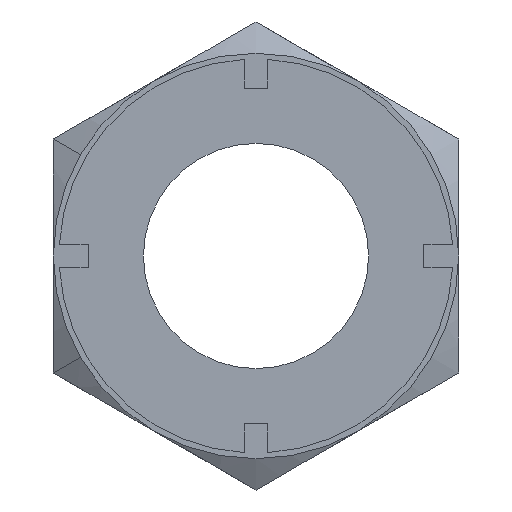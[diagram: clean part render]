
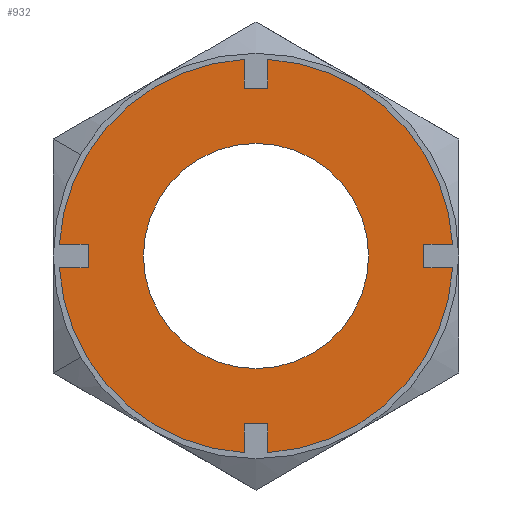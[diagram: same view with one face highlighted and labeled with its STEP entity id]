
A CAD part, left-side view. The second image highlights one B-rep face of the part: STEP entity #932.
In plain terms, the highlighted planar face has unit normal (-1, 0, 0).
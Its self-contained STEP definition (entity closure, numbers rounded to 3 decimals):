
#130=CARTESIAN_POINT('',(-27.0,0.,10.0));
#131=VERTEX_POINT('',#130);
#140=CARTESIAN_POINT('',(-27.0,10.0,0.0));
#141=VERTEX_POINT('',#140);
#142=CARTESIAN_POINT('',(-27.0,0.0,0.0));
#143=DIRECTION('',(1.0,0.0,0.0));
#144=DIRECTION('',(0.0,1.0,0.0));
#145=AXIS2_PLACEMENT_3D('',#142,#143,#144);
#146=CIRCLE('',#145,10.0);
#147=EDGE_CURVE('',#141,#131,#146,.T.);
#332=CARTESIAN_POINT('',(-27.0,0.,-10.0));
#333=VERTEX_POINT('',#332);
#342=CARTESIAN_POINT('',(-27.0,-10.0,0.));
#343=VERTEX_POINT('',#342);
#344=CARTESIAN_POINT('',(-27.0,0.0,0.0));
#345=DIRECTION('',(1.0,0.0,0.0));
#346=DIRECTION('',(0.0,1.0,0.0));
#347=AXIS2_PLACEMENT_3D('',#344,#345,#346);
#348=CIRCLE('',#347,10.0);
#349=EDGE_CURVE('',#343,#333,#348,.T.);
#383=CARTESIAN_POINT('',(-27.0,0.0,0.0));
#384=DIRECTION('',(1.0,0.0,0.0));
#385=DIRECTION('',(0.0,1.0,0.0));
#386=AXIS2_PLACEMENT_3D('',#383,#384,#385);
#387=CIRCLE('',#386,10.0);
#388=EDGE_CURVE('',#333,#141,#387,.T.);
#400=CARTESIAN_POINT('',(-27.0,17.468,1.05));
#401=VERTEX_POINT('',#400);
#416=CARTESIAN_POINT('',(-27.0,14.9,1.05));
#417=VERTEX_POINT('',#416);
#424=CARTESIAN_POINT('',(-27.0,17.468,1.05));
#425=DIRECTION('',(0.0,-1.0,0.0));
#426=VECTOR('',#425,2.568);
#427=LINE('',#424,#426);
#428=EDGE_CURVE('',#401,#417,#427,.T.);
#438=CARTESIAN_POINT('',(-27.0,17.468,-1.05));
#439=VERTEX_POINT('',#438);
#448=CARTESIAN_POINT('',(-27.0,14.9,-1.05));
#449=VERTEX_POINT('',#448);
#450=CARTESIAN_POINT('',(-27.0,14.9,-1.05));
#451=DIRECTION('',(0.0,1.0,0.0));
#452=VECTOR('',#451,2.568);
#453=LINE('',#450,#452);
#454=EDGE_CURVE('',#449,#439,#453,.T.);
#485=CARTESIAN_POINT('',(-27.0,14.9,1.05));
#486=DIRECTION('',(0.0,0.0,-1.0));
#487=VECTOR('',#486,2.1);
#488=LINE('',#485,#487);
#489=EDGE_CURVE('',#417,#449,#488,.T.);
#502=CARTESIAN_POINT('',(-27.0,-1.05,17.468));
#503=VERTEX_POINT('',#502);
#518=CARTESIAN_POINT('',(-27.0,-1.05,14.9));
#519=VERTEX_POINT('',#518);
#526=CARTESIAN_POINT('',(-27.0,-1.05,17.468));
#527=DIRECTION('',(0.0,0.0,-1.0));
#528=VECTOR('',#527,2.568);
#529=LINE('',#526,#528);
#530=EDGE_CURVE('',#503,#519,#529,.T.);
#540=CARTESIAN_POINT('',(-27.0,1.05,17.468));
#541=VERTEX_POINT('',#540);
#550=CARTESIAN_POINT('',(-27.0,1.05,14.9));
#551=VERTEX_POINT('',#550);
#552=CARTESIAN_POINT('',(-27.0,1.05,14.9));
#553=DIRECTION('',(0.0,0.0,1.0));
#554=VECTOR('',#553,2.568);
#555=LINE('',#552,#554);
#556=EDGE_CURVE('',#551,#541,#555,.T.);
#587=CARTESIAN_POINT('',(-27.0,-1.05,14.9));
#588=DIRECTION('',(0.0,1.0,0.0));
#589=VECTOR('',#588,2.1);
#590=LINE('',#587,#589);
#591=EDGE_CURVE('',#519,#551,#590,.T.);
#604=CARTESIAN_POINT('',(-27.0,-17.468,-1.05));
#605=VERTEX_POINT('',#604);
#620=CARTESIAN_POINT('',(-27.0,-14.9,-1.05));
#621=VERTEX_POINT('',#620);
#628=CARTESIAN_POINT('',(-27.0,-17.468,-1.05));
#629=DIRECTION('',(0.0,1.0,0.0));
#630=VECTOR('',#629,2.568);
#631=LINE('',#628,#630);
#632=EDGE_CURVE('',#605,#621,#631,.T.);
#642=CARTESIAN_POINT('',(-27.0,-17.468,1.05));
#643=VERTEX_POINT('',#642);
#652=CARTESIAN_POINT('',(-27.0,-14.9,1.05));
#653=VERTEX_POINT('',#652);
#654=CARTESIAN_POINT('',(-27.0,-14.9,1.05));
#655=DIRECTION('',(0.0,-1.0,0.0));
#656=VECTOR('',#655,2.568);
#657=LINE('',#654,#656);
#658=EDGE_CURVE('',#653,#643,#657,.T.);
#689=CARTESIAN_POINT('',(-27.0,-14.9,-1.05));
#690=DIRECTION('',(0.0,0.0,1.0));
#691=VECTOR('',#690,2.1);
#692=LINE('',#689,#691);
#693=EDGE_CURVE('',#621,#653,#692,.T.);
#706=CARTESIAN_POINT('',(-27.0,1.05,-17.468));
#707=VERTEX_POINT('',#706);
#722=CARTESIAN_POINT('',(-27.0,1.05,-14.9));
#723=VERTEX_POINT('',#722);
#730=CARTESIAN_POINT('',(-27.0,1.05,-17.468));
#731=DIRECTION('',(0.0,0.0,1.0));
#732=VECTOR('',#731,2.568);
#733=LINE('',#730,#732);
#734=EDGE_CURVE('',#707,#723,#733,.T.);
#744=CARTESIAN_POINT('',(-27.0,-1.05,-17.468));
#745=VERTEX_POINT('',#744);
#754=CARTESIAN_POINT('',(-27.0,-1.05,-14.9));
#755=VERTEX_POINT('',#754);
#756=CARTESIAN_POINT('',(-27.0,-1.05,-14.9));
#757=DIRECTION('',(0.0,0.0,-1.0));
#758=VECTOR('',#757,2.568);
#759=LINE('',#756,#758);
#760=EDGE_CURVE('',#755,#745,#759,.T.);
#791=CARTESIAN_POINT('',(-27.0,1.05,-14.9));
#792=DIRECTION('',(0.0,-1.0,0.0));
#793=VECTOR('',#792,2.1);
#794=LINE('',#791,#793);
#795=EDGE_CURVE('',#723,#755,#794,.T.);
#807=CARTESIAN_POINT('',(-27.0,0.0,0.0));
#808=DIRECTION('',(1.0,0.0,0.0));
#809=DIRECTION('',(0.0,1.0,0.0));
#810=AXIS2_PLACEMENT_3D('',#807,#808,#809);
#811=CIRCLE('',#810,17.5);
#812=EDGE_CURVE('',#605,#745,#811,.T.);
#831=CARTESIAN_POINT('',(-27.0,0.0,0.0));
#832=DIRECTION('',(1.0,0.0,0.0));
#833=DIRECTION('',(0.0,1.0,0.0));
#834=AXIS2_PLACEMENT_3D('',#831,#832,#833);
#835=CIRCLE('',#834,17.5);
#836=EDGE_CURVE('',#503,#643,#835,.T.);
#863=CARTESIAN_POINT('',(-27.0,0.0,0.0));
#864=DIRECTION('',(1.0,0.0,0.0));
#865=DIRECTION('',(0.0,1.0,0.0));
#866=AXIS2_PLACEMENT_3D('',#863,#864,#865);
#867=CIRCLE('',#866,17.5);
#868=EDGE_CURVE('',#707,#439,#867,.T.);
#879=CARTESIAN_POINT('',(-27.0,0.0,0.0));
#880=DIRECTION('',(1.0,0.0,0.0));
#881=DIRECTION('',(0.0,1.0,0.0));
#882=AXIS2_PLACEMENT_3D('',#879,#880,#881);
#883=CIRCLE('',#882,17.5);
#884=EDGE_CURVE('',#401,#541,#883,.T.);
#897=CARTESIAN_POINT('',(-27.0,-19.215,-19.215));
#898=DIRECTION('',(-1.0,0.0,0.0));
#899=DIRECTION('',(0.0,0.0,1.0));
#900=AXIS2_PLACEMENT_3D('',#897,#898,#899);
#901=PLANE('',#900);
#902=ORIENTED_EDGE('',*,*,#428,.T.);
#903=ORIENTED_EDGE('',*,*,#489,.T.);
#904=ORIENTED_EDGE('',*,*,#454,.T.);
#905=ORIENTED_EDGE('',*,*,#868,.F.);
#906=ORIENTED_EDGE('',*,*,#734,.T.);
#907=ORIENTED_EDGE('',*,*,#795,.T.);
#908=ORIENTED_EDGE('',*,*,#760,.T.);
#909=ORIENTED_EDGE('',*,*,#812,.F.);
#910=ORIENTED_EDGE('',*,*,#632,.T.);
#911=ORIENTED_EDGE('',*,*,#693,.T.);
#912=ORIENTED_EDGE('',*,*,#658,.T.);
#913=ORIENTED_EDGE('',*,*,#836,.F.);
#914=ORIENTED_EDGE('',*,*,#530,.T.);
#915=ORIENTED_EDGE('',*,*,#591,.T.);
#916=ORIENTED_EDGE('',*,*,#556,.T.);
#917=ORIENTED_EDGE('',*,*,#884,.F.);
#918=EDGE_LOOP('',(#902,#903,#904,#905,#906,#907,#908,#909,#910,#911,#912,#913,#914,#915,#916,#917));
#919=FACE_OUTER_BOUND('',#918,.T.);
#920=ORIENTED_EDGE('',*,*,#147,.T.);
#921=CARTESIAN_POINT('',(-27.0,0.0,0.0));
#922=DIRECTION('',(1.0,0.0,0.0));
#923=DIRECTION('',(0.0,1.0,0.0));
#924=AXIS2_PLACEMENT_3D('',#921,#922,#923);
#925=CIRCLE('',#924,10.0);
#926=EDGE_CURVE('',#131,#343,#925,.T.);
#927=ORIENTED_EDGE('',*,*,#926,.T.);
#928=ORIENTED_EDGE('',*,*,#349,.T.);
#929=ORIENTED_EDGE('',*,*,#388,.T.);
#930=EDGE_LOOP('',(#920,#927,#928,#929));
#931=FACE_BOUND('',#930,.T.);
#932=ADVANCED_FACE('',(#919,#931),#901,.T.);
